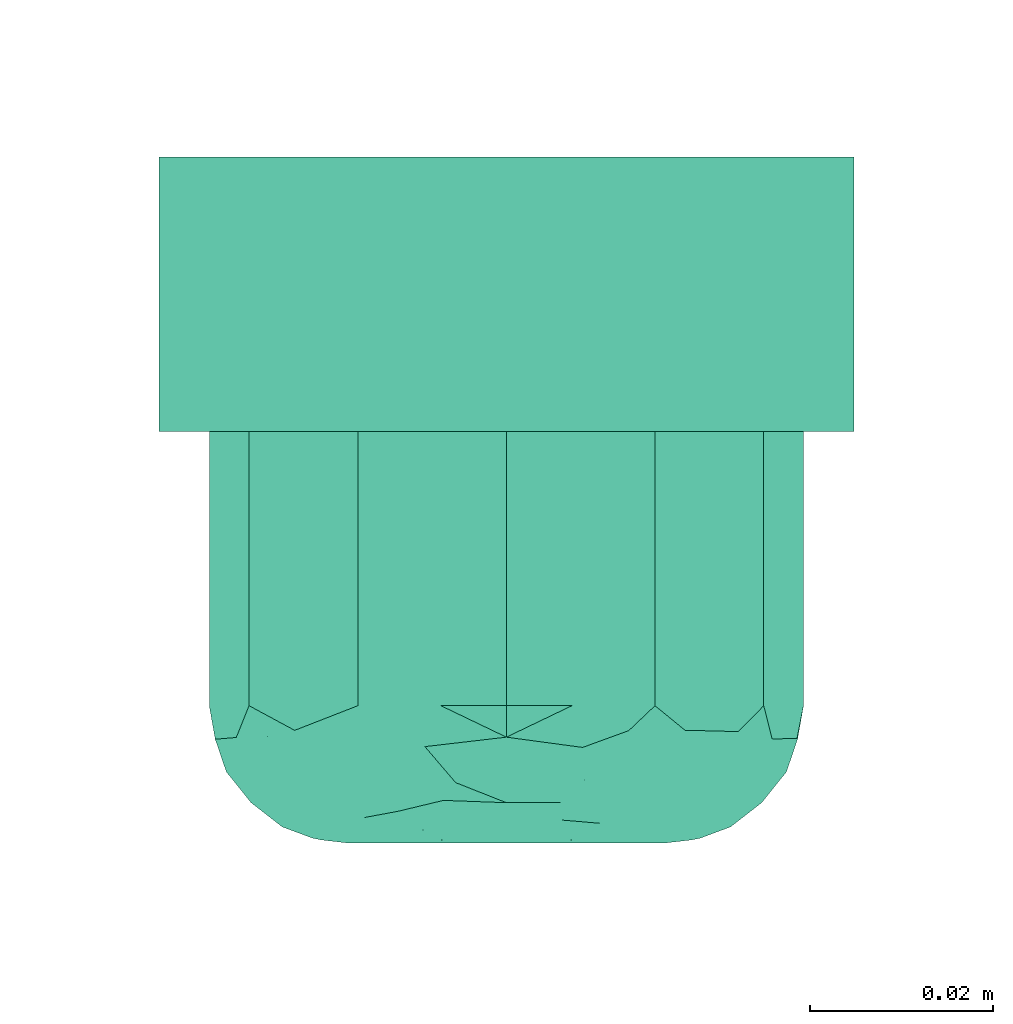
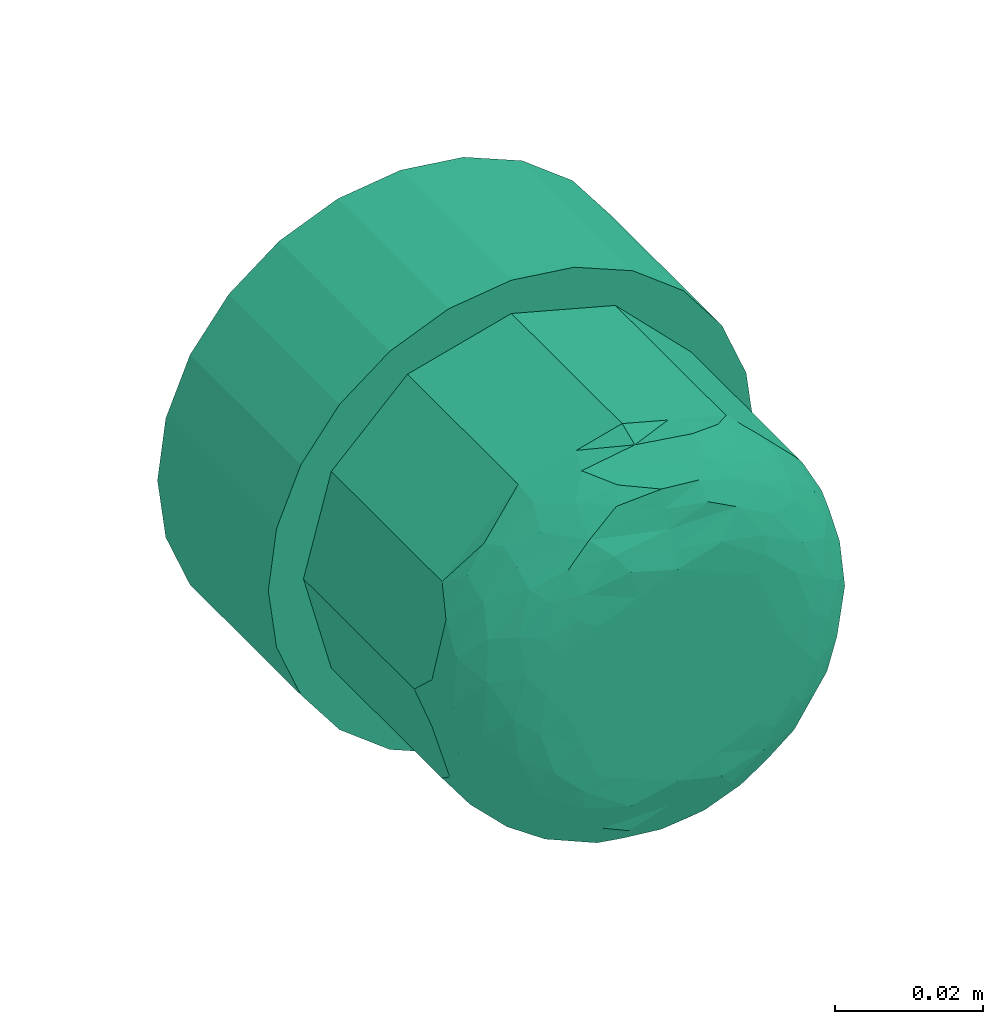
# One storey, part 42 of 146: 1 distribution control element.
"""IFC2X3 building model written with IfcOpenShell, lengths in metres."""

import ifcopenshell
import ifcopenshell.guid

model = None  # the IFC model being written
_history = None  # IfcOwnerHistory: only IFC2X3 demands one
_inside = {}  # id of a spatial element -> (the spatial element, [elements in it])
_under = {}  # id of a project, library or spatial element -> (it, [spatial elements below it])
_declared = {}  # id of a project -> (the project, [libraries it declares])
_typed = {}  # id of a type object -> (the type object, [elements of that type])
_made_of = {}  # id of a material, layer set ... -> (it, [elements and type objects made of it])


def new_model(schema):
    """Start an empty IFC model of exactly this schema.

    Asked for "IFC4X3", IfcOpenShell would pick the latest addendum, in which some entities
    have other attributes; the version numbers below select the first issue.
    IFC2X3 requires an IfcOwnerHistory on every rooted entity: one is made here for all.
    """
    global model, _history
    if schema == "IFC4X3":
        model = ifcopenshell.file(schema_version=(4, 3, 0, 0))
    else:
        model = ifcopenshell.file(schema=schema)
    _inside.clear()
    _under.clear()
    _declared.clear()
    _typed.clear()
    _made_of.clear()
    _history = None
    if model.schema == "IFC2X3":
        org = make("IfcOrganization", Name="unknown")
        user = make(
            "IfcPersonAndOrganization",
            ThePerson=make("IfcPerson", FamilyName="unknown"),
            TheOrganization=org,
        )
        app = make(
            "IfcApplication",
            ApplicationDeveloper=org,
            Version="unknown",
            ApplicationFullName="unknown",
            ApplicationIdentifier="unknown",
        )
        _history = make(
            "IfcOwnerHistory",
            OwningUser=user,
            OwningApplication=app,
            ChangeAction="ADDED",
            CreationDate=0,
        )
    return model


def make(cls, **values):
    """One entity of the class cls with the attributes given. An attribute that is None is left unset."""
    return model.create_entity(
        cls, **{name: value for name, value in values.items() if value is not None}
    )


def entity(cls, *values):
    """Any entity or typed value of the class cls, its attributes in the order of the schema. None: left unset."""
    e = model.create_entity(cls)
    for i, value in enumerate(values):
        if value is not None:
            e[i] = value
    return e


def rooted(cls, **values):
    """An entity with a GlobalId (a new one), such as an element, a storey or a relation."""
    return make(cls, GlobalId=ifcopenshell.guid.new(), OwnerHistory=_history, **values)


def si_unit(unit_type, name, prefix=None):
    """IfcSIUnit, for example si_unit("LENGTHUNIT", "METRE", prefix="MILLI")."""
    return make("IfcSIUnit", UnitType=unit_type, Prefix=prefix, Name=name)


def converted_unit(unit_type, name, factor, base, dimensions=None, offset=None):
    """IfcConversionBasedUnit, such as the inch: factor (a typed value) times the base unit."""
    return make(
        "IfcConversionBasedUnit"
        if offset is None
        else "IfcConversionBasedUnitWithOffset",
        ConversionOffset=offset,
        Dimensions=None
        if dimensions is None
        else entity("IfcDimensionalExponents", *dimensions),
        UnitType=unit_type,
        Name=name,
        ConversionFactor=make(
            "IfcMeasureWithUnit", ValueComponent=factor, UnitComponent=base
        ),
    )


def derived_unit(unit_type, elements):
    """IfcDerivedUnit: a product of units, each with its exponent."""
    return make(
        "IfcDerivedUnit",
        Elements=[
            make("IfcDerivedUnitElement", Unit=unit, Exponent=power)
            for unit, power in elements
        ],
        UnitType=unit_type,
    )


def assignment(units):
    """IfcUnitAssignment: the units of a project."""
    return None if units is None else make("IfcUnitAssignment", Units=units)


def point(xyz):
    """IfcCartesianPoint."""
    return None if xyz is None else make("IfcCartesianPoint", Coordinates=xyz)


def direction(xyz):
    """IfcDirection."""
    return None if xyz is None else make("IfcDirection", DirectionRatios=xyz)


def frame(location, z_axis=None, x_axis=None):
    """IfcAxis2Placement3D, a coordinate frame: its origin and axes. An axis left out is left unset."""
    return make(
        "IfcAxis2Placement3D",
        Location=point(location),
        Axis=direction(z_axis),
        RefDirection=direction(x_axis),
    )


def origin():
    """The frame at (0, 0, 0) with its axes left unset."""
    return frame((0.0, 0.0, 0.0))


def place(relative_to, where):
    """IfcLocalPlacement: puts the frame where relative to a parent placement (None: the world)."""
    return make(
        "IfcLocalPlacement", PlacementRelTo=relative_to, RelativePlacement=where
    )


def context(
    kind, dimensions, precision=None, world=None, true_north=None, identifier=None
):
    """IfcGeometricRepresentationContext, for example the 3D "Model" context."""
    return make(
        "IfcGeometricRepresentationContext",
        ContextIdentifier=identifier,
        ContextType=kind,
        CoordinateSpaceDimension=dimensions,
        Precision=precision,
        WorldCoordinateSystem=world,
        TrueNorth=true_north,
    )


def subcontext(parent, identifier, kind, view, scale=None):
    """IfcGeometricRepresentationSubContext, for example "Body" below "Model"."""
    return make(
        "IfcGeometricRepresentationSubContext",
        ContextIdentifier=identifier,
        ContextType=kind,
        ParentContext=parent,
        TargetScale=scale,
        TargetView=view,
    )


def project(units=None, contexts=None):
    """IfcProject with its units and contexts."""
    return rooted(
        "IfcProject",
        Name="project",
        RepresentationContexts=contexts,
        UnitsInContext=assignment(units),
    )


def spatial(cls, under=None, at=None, **own):
    """A site, building, storey or space (cls), placed at a placement, below another one or the project."""
    s = rooted(cls, ObjectPlacement=at, **own)
    if under is not None:
        _under.setdefault(under.id(), (under, []))[1].append(s)
    return s


def faces_of(points, faces, orient=None, outer=None):
    """IfcFace entities. A face is a list of loops; a loop is a list of indices into points, from 0.

    orient and outer hold one flag for each loop. By default every Orientation is true, the
    first loop of a face is its IfcFaceOuterBound and the others are IfcFaceBound.
    """
    made = []
    for i, loops in enumerate(faces):
        bounds = []
        for j, loop in enumerate(loops):
            is_outer = j == 0 if outer is None else outer[i][j]
            bounds.append(
                make(
                    "IfcFaceOuterBound" if is_outer else "IfcFaceBound",
                    Bound=make("IfcPolyLoop", Polygon=[points[k] for k in loop]),
                    Orientation=True if orient is None else orient[i][j],
                )
            )
        made.append(make("IfcFace", Bounds=bounds))
    return made


def faceted_brep(points, faces, orient=None, outer=None, voids=None):
    """IfcFacetedBrep: a solid bounded by flat faces; with voids (closed shells), ...WithVoids."""
    shared = [point(p) for p in points]
    hull = make("IfcClosedShell", CfsFaces=faces_of(shared, faces, orient, outer))
    if voids is None:
        return make("IfcFacetedBrep", Outer=hull)
    return make(
        "IfcFacetedBrepWithVoids",
        Outer=hull,
        Voids=[
            make(cls, CfsFaces=faces_of(shared, fs, o, b)) for cls, fs, o, b in voids
        ],
    )


def shape(context_of_items, identifier, shape_type, items):
    """IfcShapeRepresentation: the items that make up one representation, for example the "Body"."""
    return make(
        "IfcShapeRepresentation",
        ContextOfItems=context_of_items,
        RepresentationIdentifier=identifier,
        RepresentationType=shape_type,
        Items=items,
    )


def source(mapping_origin, context_of_items, identifier, shape_type, items):
    """IfcRepresentationMap: a shape defined once, which mapped items show again and again."""
    return make(
        "IfcRepresentationMap",
        MappingOrigin=mapping_origin,
        MappedRepresentation=shape(context_of_items, identifier, shape_type, items),
    )


def transform(
    local_origin,
    x_axis=None,
    y_axis=None,
    z_axis=None,
    scale=None,
    scale2=None,
    scale3=None,
    uniform=True,
):
    """IfcCartesianTransformationOperator3D, or its non-uniform kind. x_axis, y_axis, z_axis: its Axis1, 2, 3."""
    if uniform:
        return make(
            "IfcCartesianTransformationOperator3D",
            Axis1=direction(x_axis),
            Axis2=direction(y_axis),
            LocalOrigin=point(local_origin),
            Scale=scale,
            Axis3=direction(z_axis),
        )
    return make(
        "IfcCartesianTransformationOperator3DnonUniform",
        Axis1=direction(x_axis),
        Axis2=direction(y_axis),
        LocalOrigin=point(local_origin),
        Scale=scale,
        Axis3=direction(z_axis),
        Scale2=scale2,
        Scale3=scale3,
    )


def mapped(mapping_source, mapping_target):
    """IfcMappedItem: shows the shape of a source again, moved by a transform."""
    return make(
        "IfcMappedItem", MappingSource=mapping_source, MappingTarget=mapping_target
    )


def material(Name=None, Category=None):
    """IfcMaterial."""
    return make("IfcMaterial", Name=Name, Category=Category)


def made_of(thing, what):
    """Note that an element or type object is made of a material, layer set ...; save() writes the relation."""
    if what is not None:
        _made_of.setdefault(what.id(), (what, []))[1].append(thing)
    return thing


def type_object(cls, material=None, **own):
    """A type object (cls), such as IfcWallType, which elements share."""
    return made_of(rooted(cls, **own), material)


def type_shapes(of_type, sources):
    """Give a type object the sources (RepresentationMaps) that its elements show as mapped items."""
    of_type.RepresentationMaps = sources


def element(
    cls,
    number,
    at=None,
    inside=None,
    cuts=None,
    type_object=None,
    material=None,
    context=None,
    identifier="Body",
    shape_type=None,
    held_by="IfcProductDefinitionShape",
    body=None,
    shapes=None,
    **own,
):
    """One element of the class cls, such as IfcWall. Its Tag is "e" and its number.

    at: its placement. inside: the storey or other place that contains it. cuts: it is an
    opening in that element (IfcRelVoidsElement). A single representation is given by context,
    identifier, shape_type and body (its items); several are given by shapes. held_by: the class
    of the entity that holds the representations. save() writes the other relations.
    """
    e = rooted(cls, Tag="e%d" % number, ObjectPlacement=at, **own)
    if body is not None:
        shapes = [shape(context, identifier, shape_type, body)]
    if shapes is not None:
        e.Representation = make(held_by, Representations=shapes)
    if inside is not None:
        _inside.setdefault(inside.id(), (inside, []))[1].append(e)
    if cuts is not None:
        rooted(
            "IfcRelVoidsElement", RelatingBuildingElement=cuts, RelatedOpeningElement=e
        )
    if type_object is not None:
        _typed.setdefault(type_object.id(), (type_object, []))[1].append(e)
    return made_of(e, material)


def aggregate(whole, parts):
    """IfcRelAggregates: a whole, such as a stair, and the parts it consists of."""
    return rooted("IfcRelAggregates", RelatingObject=whole, RelatedObjects=parts)


def save(model, path):
    """Write the relations noted so far, then the file.

    IfcRelAggregates (storeys below a building ...), IfcRelContainedInSpatialStructure (elements
    in a storey), IfcRelDefinesByType, IfcRelAssociatesMaterial and IfcRelDeclares: one each for
    every whole, place, type object, material and project.
    """
    for whole, parts in _under.values():
        aggregate(whole, parts)
    for where, things in _inside.values():
        rooted(
            "IfcRelContainedInSpatialStructure",
            RelatedElements=things,
            RelatingStructure=where,
        )
    for kind, things in _typed.values():
        rooted("IfcRelDefinesByType", RelatedObjects=things, RelatingType=kind)
    for what, things in _made_of.values():
        rooted("IfcRelAssociatesMaterial", RelatedObjects=things, RelatingMaterial=what)
    for by, libraries in _declared.values():
        rooted("IfcRelDeclares", RelatingContext=by, RelatedDefinitions=libraries)
    model.write(path)


model = new_model("IFC2X3")

# Units and contexts
model_context = context("Model", 3, precision=1e-05, world=origin(), true_north=direction((6.12303176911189e-17, 1.0)))
body_context = subcontext(model_context, "Body", "Model", "MODEL_VIEW")
ifc_project = project(units=[si_unit("LENGTHUNIT", "METRE"), si_unit("AREAUNIT", "SQUARE_METRE"), si_unit("VOLUMEUNIT", "CUBIC_METRE"), converted_unit("PLANEANGLEUNIT", "DEGREE", entity("IfcRatioMeasure", 0.0174532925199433), si_unit("PLANEANGLEUNIT", "RADIAN"), dimensions=[0, 0, 0, 0, 0, 0, 0]), si_unit("MASSUNIT", "GRAM", prefix="KILO"), derived_unit("MASSDENSITYUNIT", [(si_unit("MASSUNIT", "GRAM", prefix="KILO"), 1), (si_unit("LENGTHUNIT", "METRE"), -3)]), si_unit("TIMEUNIT", "SECOND"), si_unit("FREQUENCYUNIT", "HERTZ"), si_unit("THERMODYNAMICTEMPERATUREUNIT", "DEGREE_CELSIUS"), derived_unit("THERMALTRANSMITTANCEUNIT", [(si_unit("MASSUNIT", "GRAM", prefix="KILO"), 1), (si_unit("THERMODYNAMICTEMPERATUREUNIT", "KELVIN"), -1), (si_unit("TIMEUNIT", "SECOND"), -3)]), derived_unit("VOLUMETRICFLOWRATEUNIT", [(si_unit("LENGTHUNIT", "METRE"), 3), (si_unit("TIMEUNIT", "SECOND"), -1)]), si_unit("ELECTRICCURRENTUNIT", "AMPERE"), si_unit("ELECTRICVOLTAGEUNIT", "VOLT"), si_unit("POWERUNIT", "WATT"), si_unit("FORCEUNIT", "NEWTON"), si_unit("ILLUMINANCEUNIT", "LUX"), si_unit("LUMINOUSFLUXUNIT", "LUMEN"), si_unit("LUMINOUSINTENSITYUNIT", "CANDELA"), derived_unit("USERDEFINED", [(si_unit("MASSUNIT", "GRAM", prefix="KILO"), -1), (si_unit("LENGTHUNIT", "METRE"), -2), (si_unit("TIMEUNIT", "SECOND"), 3), (si_unit("LUMINOUSFLUXUNIT", "LUMEN"), 1)]), derived_unit("LINEARVELOCITYUNIT", [(si_unit("LENGTHUNIT", "METRE"), 1), (si_unit("TIMEUNIT", "SECOND"), -1)]), si_unit("PRESSUREUNIT", "PASCAL"), derived_unit("USERDEFINED", [(si_unit("LENGTHUNIT", "METRE"), -2), (si_unit("MASSUNIT", "GRAM", prefix="KILO"), 1), (si_unit("TIMEUNIT", "SECOND"), -2)])], contexts=[model_context])

# Site, building, storey
site_placement = place(None, origin())
site = spatial("IfcSite", under=ifc_project, at=site_placement, Name="Default", CompositionType="ELEMENT")
building_placement = place(site_placement, origin())
building = spatial("IfcBuilding", under=site, at=building_placement, CompositionType="ELEMENT")
storey_placement = place(building_placement, origin())
storey = spatial("IfcBuildingStorey", under=building, at=storey_placement, Name="S01", CompositionType="ELEMENT", Elevation=0.0)

# Distribution control element
ifc_material = material(Name="Red plastic")
alarm_type = type_object("IfcAlarmType", Name="Incendie_Flash", PredefinedType="NOTDEFINED", material=ifc_material)
shared_shape = source(origin(), body_context, "Body", "Brep", [
    faceted_brep([(0.0268700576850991, 0.0268700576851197, 0.0299999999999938), (0.0190000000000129, 0.0329089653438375, 0.0299999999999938), (0.00983512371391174, 0.0367051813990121, 0.0299999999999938), (0.0, 0.038000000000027, 0.029999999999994), (-0.0098351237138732, 0.036705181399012, 0.0299999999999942), (-0.0189999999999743, 0.0329089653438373, 0.0299999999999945), (-0.0268700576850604, 0.0268700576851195, 0.0299999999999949), (-0.0329089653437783, 0.0190000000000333, 0.0299999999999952), (-0.0367051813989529, 0.00983512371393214, 0.0299999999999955), (-0.0379999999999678, 0.0, 0.0299999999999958), (-0.0367051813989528, -0.0098351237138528, 0.0299999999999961), (-0.0329089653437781, -0.0189999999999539, 0.0299999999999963), (-0.0268700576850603, -0.0268700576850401, 0.0299999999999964), (-0.0189999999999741, -0.0329089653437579, 0.0299999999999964), (-0.00983512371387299, -0.0367051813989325, 0.0299999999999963), (0.0, -0.0379999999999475, 0.0299999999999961), (0.00983512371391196, -0.0367051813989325, 0.0299999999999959), (0.0190000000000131, -0.0329089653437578, 0.0299999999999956), (0.0268700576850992, -0.02687005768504, 0.0299999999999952), (0.0329089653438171, -0.0189999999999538, 0.0299999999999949), (0.0367051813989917, -0.0098351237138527, 0.0299999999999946), (0.0380000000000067, 0.0, 0.0299999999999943), (0.0367051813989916, 0.00983512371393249, 0.029999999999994), (0.0329089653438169, 0.0190000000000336, 0.0299999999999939), (0.00983512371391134, -0.0367051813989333, 0.0), (0.0, -0.0379999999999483, 0.0), (-0.00983512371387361, -0.0367051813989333, 0.0), (-0.0189999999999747, -0.0329089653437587, 0.0), (-0.0268700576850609, -0.0268700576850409, 0.0), (-0.0329089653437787, -0.0189999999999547, 0.0), (-0.0367051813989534, -0.00983512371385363, 0.0), (-0.0379999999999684, 0.0, 0.0), (-0.0367051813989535, 0.00983512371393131, 0.0), (-0.0329089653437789, 0.0190000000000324, 0.0), (-0.0268700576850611, 0.0268700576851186, 0.0), (-0.0189999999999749, 0.0329089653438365, 0.0), (-0.00983512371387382, 0.0367051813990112, 0.0), (0.0, 0.0380000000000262, 0.0), (0.00983512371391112, 0.0367051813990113, 0.0), (0.0190000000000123, 0.0329089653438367, 0.0), (0.0268700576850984, 0.0268700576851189, 0.0), (0.0329089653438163, 0.0190000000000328, 0.0), (0.036705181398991, 0.00983512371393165, 0.0), (0.038000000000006, 0.0, 0.0), (0.0367051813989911, -0.00983512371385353, 0.0), (0.0329089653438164, -0.0189999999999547, 0.0), (0.0268700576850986, -0.0268700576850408, 0.0), (0.0190000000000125, -0.0329089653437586, 0.0)], [[[0, 1, 2, 3, 4, 5, 6, 7, 8, 9, 10, 11, 12, 13, 14, 15, 16, 17, 18, 19, 20, 21, 22, 23]], [[24, 25, 26, 27, 28, 29, 30, 31, 32, 33, 34, 35, 36, 37, 38, 39, 40, 41, 42, 43, 44, 45, 46, 47]], [[31, 9, 8, 32]], [[32, 8, 7, 33]], [[35, 34, 6, 5]], [[6, 34, 33, 7]], [[36, 35, 5, 4]], [[36, 4, 3, 37]], [[37, 3, 2, 38]], [[38, 2, 1, 39]], [[0, 40, 39, 1]], [[23, 41, 40, 0]], [[23, 22, 42, 41]], [[22, 21, 43, 42]], [[43, 21, 20, 44]], [[44, 20, 19, 45]], [[47, 46, 18, 17]], [[18, 46, 45, 19]], [[24, 47, 17, 16]], [[24, 16, 15, 25]], [[14, 26, 25, 15]], [[30, 29, 11, 10]], [[12, 11, 29, 28]], [[31, 30, 10, 9]], [[13, 27, 26, 14]], [[13, 12, 28, 27]]]),
    faceted_brep([(-0.00833767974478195, -0.0306762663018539, 0.0645629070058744), (-0.00716197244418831, -0.0305809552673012, 0.0600000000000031), (0.0, -0.0310753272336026, 0.0634394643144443), (-0.0317848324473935, -0.0042753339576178, 0.0635614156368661), (-0.0306323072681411, 0.000670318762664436, 0.0672353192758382), (-0.0318494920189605, 0.00354130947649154, 0.063663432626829), (-0.0202727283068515, 0.00358393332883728, 0.074678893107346), (-0.0182577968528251, 0.00974892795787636, 0.0746552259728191), (-0.0227868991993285, 0.00668807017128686, 0.0736367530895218), (-0.0167767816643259, -0.0227822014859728, 0.0704169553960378), (-0.021187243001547, -0.0212245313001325, 0.0683071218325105), (-0.016385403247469, -0.0254148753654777, 0.0679194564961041), (-0.0200936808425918, 0.0121748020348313, 0.0737502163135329), (0.0, -0.0281066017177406, 0.070606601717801), (-0.00590296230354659, -0.0275227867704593, 0.0705643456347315), (-0.00857849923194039, -0.0288841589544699, 0.0680903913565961), (-0.0279333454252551, -0.00316972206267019, 0.0706005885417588), (-0.0298000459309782, -0.0070831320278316, 0.0672523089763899), (-0.0253054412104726, -0.0115121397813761, 0.0709036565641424), (-0.0140812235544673, -0.0176795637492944, 0.0741056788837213), (-0.00714839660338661, -0.0193281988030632, 0.0746745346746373), (-0.0142535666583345, -0.0145433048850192, 0.0747241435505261), (-0.0207236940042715, -0.0135056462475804, 0.0731392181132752), (-0.0187772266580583, -0.0101036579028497, 0.0745046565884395), (-0.0260097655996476, -0.0163827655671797, 0.0670513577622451), (-0.0253709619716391, -0.0198772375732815, 0.0628318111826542), (-0.0212676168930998, -0.0232237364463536, 0.0654097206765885), (-0.0245225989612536, 8.80194780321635e-05, 0.0732544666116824), (-0.0273833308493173, 0.00573701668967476, 0.0707338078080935), (-0.0303229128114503, -0.00812499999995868, 0.0600000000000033), (-0.0290659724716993, -0.0135031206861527, 0.0636489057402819), (-0.0231315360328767, 0.0125689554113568, 0.0721287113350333), (-0.0207033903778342, 0.0187904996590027, 0.0707520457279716), (-0.0265039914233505, 0.0119036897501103, 0.0695653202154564), (-0.00891676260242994, 0.0305418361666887, 0.064475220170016), (-0.00716197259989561, 0.0305809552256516, 0.0600000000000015), (-0.00812499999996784, 0.0303229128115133, 0.0600000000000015), (-0.0162499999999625, 0.0281458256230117, 0.0600000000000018), (-0.0115458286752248, -0.0257177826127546, 0.0705219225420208), (-0.0104492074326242, -0.0229229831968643, 0.0728774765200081), (-0.0118384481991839, 0.0243524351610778, 0.0715443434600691), (-0.00912165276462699, 0.0220231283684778, 0.0735954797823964), (0.0, 0.0228033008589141, 0.0728033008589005), (-0.0297777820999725, 0.00830917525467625, 0.066710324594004), (-0.0295480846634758, 0.0125213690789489, 0.0634761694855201), (-0.0258588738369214, 0.0163601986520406, 0.0673075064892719), (-0.0212284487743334, 0.0212045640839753, 0.0682845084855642), (-0.0171631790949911, 0.0251277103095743, 0.0676038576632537), (-0.0237895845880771, -0.00671046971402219, 0.0731492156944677), (-0.0149371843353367, -0.00618718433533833, 0.0750000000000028), (-0.0212013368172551, -0.00276607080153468, 0.0744892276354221), (-0.0207033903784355, -0.0187905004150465, 0.0707520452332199), (-0.0303229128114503, 0.00812500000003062, 0.0600000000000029), (-0.0155298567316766, 0.0142338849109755, 0.0745699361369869), (0.0, -0.0296506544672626, 0.0668789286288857), (-0.00689181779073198, 0.0275012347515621, 0.0703557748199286), (0.0, 0.0254549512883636, 0.0717049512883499), (0.0, 0.0281066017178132, 0.0706066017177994), (-0.00618718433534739, 0.0149371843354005, 0.0750000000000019), (-0.00714839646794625, 0.0193281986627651, 0.0746745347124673), (-0.0140812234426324, 0.0176795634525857, 0.0741056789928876), (-0.0062193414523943, -0.024999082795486, 0.0725201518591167), (0.0, -0.0228033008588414, 0.0728033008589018), (-0.0195368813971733, -0.0256689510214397, 0.0626830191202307), (-0.0221979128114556, -0.0221979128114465, 0.0600000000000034), (-0.0162499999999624, -0.0281458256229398, 0.0600000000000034), (-0.0150650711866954, -0.0277296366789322, 0.0652326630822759), (0.0, -0.0324999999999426, 0.0600000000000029), (-0.0133801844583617, -0.0293432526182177, 0.0627277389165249), (-0.00812499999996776, -0.0303229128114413, 0.0600000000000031), (-0.0281458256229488, -0.0162499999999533, 0.0600000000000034), (-0.026864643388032, -0.0126649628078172, 0.0687264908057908), (-0.0288189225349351, -0.0118325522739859, 0.0662114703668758), (-0.0324999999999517, 0.0, 0.0600000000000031), (-0.0281458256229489, 0.0162500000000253, 0.0600000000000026), (-0.0149371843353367, 0.00618718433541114, 0.0750000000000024), (-0.0123743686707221, 0.0123743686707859, 0.0750000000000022), (-0.0261755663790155, 0.0186043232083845, 0.0633828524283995), (-0.0215965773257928, 0.0229734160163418, 0.0653044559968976), (-0.0231574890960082, 0.022453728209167, 0.0626954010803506), (-0.0161946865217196, 0.027510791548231, 0.0641184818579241), (-0.0116849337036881, 0.028048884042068, 0.0676788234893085), (-0.005544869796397, 0.029399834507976, 0.0684136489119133), (0.0, 0.0201516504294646, 0.0739016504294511), (-0.0221979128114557, 0.0221979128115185, 0.0600000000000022), (-0.0160989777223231, -0.0197228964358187, 0.0727142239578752), (0.0, -0.0201516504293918, 0.0739016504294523), (0.0, -0.0174999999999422, 0.0750000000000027), (-0.00618718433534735, -0.0149371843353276, 0.0750000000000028), (-0.018783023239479, 0.0171862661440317, 0.072714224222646), (-0.0123743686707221, -0.0123743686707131, 0.075000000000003), (-0.0174999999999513, 0.0, 0.0750000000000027), (0.0, 0.0296506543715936, 0.0668789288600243), (0.0, 0.0310753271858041, 0.0634394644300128), (0.0, 0.0325000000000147, 0.0600000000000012), (-0.0154632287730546, 0.0211512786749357, 0.0722185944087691), (0.0, 0.0175000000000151, 0.0750000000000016), (0.0, -0.025454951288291, 0.0717049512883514), (0.0083376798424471, 0.030676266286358, 0.0645629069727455), (0.0071619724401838, 0.0305809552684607, 0.060000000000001), (0.020723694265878, 0.0135056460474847, 0.0731392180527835), (0.0253054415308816, 0.0115121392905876, 0.0709036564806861), (0.0207033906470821, 0.0187905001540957, 0.0707520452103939), (0.00857849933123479, 0.0288841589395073, 0.0680903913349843), (0.00590296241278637, 0.0275227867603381, 0.0705643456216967), (0.0115458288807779, 0.0257177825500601, 0.0705219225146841), (0.016776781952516, 0.0227822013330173, 0.0704169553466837), (0.0211872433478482, 0.0212245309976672, 0.0683071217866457), (0.0163854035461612, 0.0254148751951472, 0.0679194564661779), (0.0317848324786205, 0.0042753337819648, 0.0635614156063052), (0.0303229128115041, 0.0081250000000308, 0.0600000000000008), (0.0290659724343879, 0.0135031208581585, 0.0636489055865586), (0.0231315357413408, -0.0125689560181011, 0.0721287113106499), (0.0207033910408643, -0.0187904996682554, 0.0707520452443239), (0.0265039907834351, -0.0119036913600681, 0.0695653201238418), (0.0140812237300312, 0.0176795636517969, 0.0741056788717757), (0.00714839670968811, 0.0193281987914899, 0.074674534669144), (0.0142535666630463, 0.0145433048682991, 0.074724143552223), (0.0187772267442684, 0.01010365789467, 0.0745046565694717), (0.024522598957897, -8.80198207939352e-05, 0.0732544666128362), (0.0279333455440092, 0.00316972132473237, 0.070600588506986), (0.023789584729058, 0.0067104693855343, 0.0731492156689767), (0.0227868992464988, -0.00668807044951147, 0.0736367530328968), (0.027383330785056, -0.00573701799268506, 0.070733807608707), (0.0104492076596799, 0.0229229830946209, 0.0728774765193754), (0.0295480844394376, -0.0125213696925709, 0.0634761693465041), (0.0318494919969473, -0.0035413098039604, 0.0636634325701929), (0.0297777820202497, -0.00830917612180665, 0.0667103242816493), (0.0303229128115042, -0.00812499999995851, 0.0600000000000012), (0.0182577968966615, -0.00974892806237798, 0.074655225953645), (0.0200936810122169, -0.0121748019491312, 0.073750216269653), (0.0171631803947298, -0.0251277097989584, 0.0676038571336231), (0.0212284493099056, -0.0212045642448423, 0.0682845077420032), (0.0118384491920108, -0.0243524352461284, 0.0715443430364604), (0.020272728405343, -0.00358393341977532, 0.0746788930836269), (0.00912165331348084, -0.0220231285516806, 0.073595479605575), (0.0306323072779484, -0.00067031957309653, 0.0672353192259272), (0.02585887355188, -0.0163601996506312, 0.0673075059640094), (0.00891676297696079, -0.030541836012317, 0.0644752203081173), (0.00716197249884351, -0.0305809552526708, 0.0600000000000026), (0.0081250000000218, -0.0303229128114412, 0.0600000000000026), (0.0162500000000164, -0.0281458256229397, 0.0600000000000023), (0.0260097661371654, 0.0163827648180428, 0.0670513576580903), (0.0253709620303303, 0.0198772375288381, 0.0628318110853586), (0.0212676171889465, 0.0232237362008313, 0.0654097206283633), (0.0298000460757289, 0.00708313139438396, 0.0672523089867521), (0.0149371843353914, 0.00618718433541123, 0.0750000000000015), (0.0212013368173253, 0.00276607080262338, 0.0744892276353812), (0.0155298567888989, -0.0142338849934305, 0.0745699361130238), (0.00689181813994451, -0.0275012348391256, 0.0703557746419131), (0.00618718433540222, -0.0149371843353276, 0.0750000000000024), (0.00714839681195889, -0.0193281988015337, 0.0746745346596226), (0.014081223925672, -0.0176795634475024, 0.0741056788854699), (0.00621934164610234, 0.0249990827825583, 0.0725201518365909), (0.0195368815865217, 0.0256689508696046, 0.0626830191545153), (0.0221979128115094, 0.0221979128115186, 0.0600000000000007), (0.0162500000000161, 0.0281458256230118, 0.0600000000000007), (0.0150650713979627, 0.0277296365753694, 0.0652326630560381), (0.0133801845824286, 0.0293432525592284, 0.0627277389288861), (0.00812500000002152, 0.0303229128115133, 0.060000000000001), (0.0281458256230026, 0.0162500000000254, 0.0600000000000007), (0.0268646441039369, 0.0126649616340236, 0.0687264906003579), (0.0288189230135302, 0.0118325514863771, 0.0662114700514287), (0.0325000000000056, 0.0, 0.060000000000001), (0.0281458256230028, -0.0162499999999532, 0.0600000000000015), (0.0149371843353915, -0.00618718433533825, 0.0750000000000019), (0.0123743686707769, -0.012374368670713, 0.0750000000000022), (0.0261755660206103, -0.0186043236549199, 0.0633828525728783), (0.0215965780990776, -0.0229734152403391, 0.06530445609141), (0.0231574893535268, -0.0224537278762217, 0.0626954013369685), (0.0161946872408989, -0.027510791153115, 0.0641184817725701), (0.0116849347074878, -0.0280488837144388, 0.0676788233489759), (0.00554487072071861, -0.0293998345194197, 0.0684136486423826), (0.0221979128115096, -0.0221979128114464, 0.0600000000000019), (0.0160989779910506, 0.0197228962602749, 0.0727142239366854), (0.00618718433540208, 0.0149371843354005, 0.0750000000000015), (0.0187830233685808, -0.0171862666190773, 0.072714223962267), (0.0123743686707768, 0.012374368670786, 0.0750000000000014), (0.017500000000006, 0.0, 0.0750000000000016), (0.0154632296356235, -0.021151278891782, 0.0722185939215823), (0.0, 0.0, 0.0750000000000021), (0.0, 0.0, 0.0300000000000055), (-0.0281458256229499, 0.0162500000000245, 0.030000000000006), (-0.0221979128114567, 0.0221979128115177, 0.0300000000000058), (-0.0162499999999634, 0.028145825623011, 0.0300000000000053), (-0.0089852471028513, 0.0300924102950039, 0.0300000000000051), (-0.0303229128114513, 0.00812500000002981, 0.0300000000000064), (-0.0324999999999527, 0.0, 0.0300000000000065), (0.0, 0.0325000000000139, 0.0300000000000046), (0.00812500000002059, 0.0303229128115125, 0.0300000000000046), (-0.0303229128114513, -0.00812499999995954, 0.0300000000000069), (-0.0281458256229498, -0.0162499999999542, 0.0300000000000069), (-0.0221979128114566, -0.0221979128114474, 0.030000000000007), (-0.0162499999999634, -0.0281458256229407, 0.0300000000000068), (-0.00812499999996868, -0.0303229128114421, 0.0300000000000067), (0.0, -0.0324999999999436, 0.0300000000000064), (0.0162500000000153, 0.0281458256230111, 0.0300000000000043), (0.0221979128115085, 0.0221979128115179, 0.0300000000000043), (0.0281458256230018, 0.0162500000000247, 0.0300000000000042), (0.0303229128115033, 0.00812500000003, 0.0300000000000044), (0.0325000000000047, 0.0, 0.0300000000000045), (0.0303229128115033, -0.00812499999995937, 0.0300000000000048), (0.00898524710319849, -0.0300924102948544, 0.0300000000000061), (0.0162500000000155, -0.0281458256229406, 0.0300000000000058), (0.0221979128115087, -0.0221979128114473, 0.0300000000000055), (0.0281458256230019, -0.016249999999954, 0.0300000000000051)], [[[0, 1, 2]], [[3, 4, 5]], [[6, 7, 8]], [[9, 10, 11]], [[8, 7, 12]], [[13, 14, 15]], [[16, 17, 18]], [[19, 20, 21]], [[22, 21, 23]], [[24, 25, 26]], [[27, 8, 28]], [[4, 3, 17]], [[3, 29, 30]], [[31, 32, 33]], [[34, 35, 36, 37]], [[9, 38, 39]], [[40, 41, 42]], [[5, 43, 44]], [[8, 31, 28]], [[45, 32, 46]], [[40, 47, 46]], [[27, 16, 48]], [[38, 15, 14]], [[23, 49, 50]], [[22, 18, 51]], [[52, 5, 44]], [[19, 39, 20]], [[12, 7, 53]], [[15, 54, 13]], [[55, 56, 57]], [[58, 59, 60]], [[39, 61, 62]], [[63, 64, 65]], [[26, 25, 63]], [[0, 15, 66]], [[15, 0, 54]], [[11, 66, 15]], [[26, 63, 66]], [[0, 2, 54]], [[1, 67, 2]], [[68, 65, 69, 1]], [[0, 66, 68]], [[26, 66, 11]], [[30, 25, 24]], [[70, 64, 25]], [[10, 51, 24]], [[70, 25, 30]], [[71, 72, 24]], [[3, 73, 29]], [[30, 24, 72]], [[29, 70, 30]], [[73, 3, 5]], [[72, 17, 3]], [[52, 44, 74]], [[4, 43, 5]], [[52, 73, 5]], [[43, 4, 28]], [[4, 17, 16]], [[33, 45, 43]], [[75, 76, 7]], [[4, 16, 28]], [[48, 16, 18]], [[48, 18, 22]], [[71, 24, 51]], [[74, 44, 77]], [[45, 44, 43]], [[78, 79, 77]], [[34, 80, 81]], [[44, 45, 77]], [[78, 45, 46]], [[82, 55, 57]], [[83, 41, 59]], [[81, 80, 47]], [[37, 79, 80]], [[78, 77, 45]], [[79, 37, 84, 74]], [[26, 11, 10]], [[38, 11, 15]], [[26, 10, 24]], [[51, 10, 9]], [[19, 85, 39]], [[38, 9, 11]], [[51, 9, 85]], [[86, 20, 39]], [[87, 20, 86]], [[39, 62, 86]], [[28, 31, 33]], [[20, 88, 21]], [[20, 87, 88]], [[32, 31, 89]], [[48, 22, 23]], [[85, 19, 22]], [[50, 48, 23]], [[90, 23, 21]], [[48, 50, 27]], [[27, 6, 8]], [[91, 50, 49]], [[23, 90, 49]], [[16, 27, 28]], [[75, 7, 6]], [[91, 6, 50]], [[12, 31, 8]], [[75, 6, 91]], [[27, 50, 6]], [[31, 12, 89]], [[60, 12, 53]], [[53, 58, 60]], [[53, 7, 76]], [[34, 92, 93]], [[58, 53, 76]], [[34, 82, 92]], [[93, 94, 35]], [[34, 93, 35]], [[79, 78, 80]], [[80, 34, 37]], [[28, 33, 43]], [[45, 33, 32]], [[68, 66, 63]], [[64, 63, 25]], [[89, 95, 32]], [[40, 42, 56]], [[82, 81, 55]], [[55, 40, 56]], [[55, 81, 40]], [[81, 82, 34]], [[92, 82, 57]], [[83, 42, 41]], [[59, 96, 83]], [[95, 89, 60]], [[96, 59, 58]], [[60, 59, 41]], [[97, 62, 61]], [[14, 13, 97]], [[38, 14, 61]], [[97, 61, 14]], [[61, 39, 38]], [[0, 68, 1]], [[65, 68, 63]], [[30, 72, 3]], [[18, 17, 71]], [[72, 71, 17]], [[18, 71, 51]], [[78, 46, 47]], [[46, 32, 40]], [[78, 47, 80]], [[81, 47, 40]], [[77, 79, 74]], [[39, 85, 9]], [[51, 85, 22]], [[95, 40, 32]], [[60, 89, 12]], [[95, 41, 40]], [[41, 95, 60]], [[90, 21, 88]], [[19, 21, 22]], [[98, 99, 93]], [[100, 101, 102]], [[103, 104, 105]], [[106, 107, 108]], [[109, 110, 111]], [[104, 103, 57]], [[112, 113, 114]], [[115, 116, 117]], [[100, 117, 118]], [[119, 120, 121]], [[119, 122, 123]], [[106, 105, 124]], [[125, 126, 127]], [[128, 126, 125]], [[122, 129, 130]], [[131, 132, 133]], [[134, 129, 122]], [[133, 135, 62]], [[109, 136, 126]], [[137, 113, 132]], [[138, 139, 140, 141]], [[142, 143, 144]], [[136, 109, 145]], [[118, 146, 147]], [[122, 112, 123]], [[120, 145, 101]], [[115, 124, 116]], [[130, 129, 148]], [[103, 92, 57]], [[149, 97, 13]], [[150, 151, 152]], [[124, 153, 42]], [[154, 155, 156]], [[144, 143, 154]], [[98, 103, 157]], [[103, 98, 92]], [[108, 157, 103]], [[144, 154, 157]], [[98, 93, 92]], [[99, 94, 93]], [[158, 156, 159, 99]], [[98, 157, 158]], [[144, 157, 108]], [[111, 143, 142]], [[160, 155, 143]], [[107, 102, 142]], [[160, 143, 111]], [[161, 162, 142]], [[109, 163, 110]], [[111, 142, 162]], [[110, 160, 111]], [[163, 109, 126]], [[162, 145, 109]], [[128, 125, 164]], [[136, 127, 126]], [[128, 163, 126]], [[127, 136, 123]], [[136, 145, 120]], [[114, 137, 127]], [[165, 166, 129]], [[136, 120, 123]], [[121, 120, 101]], [[121, 101, 100]], [[161, 142, 102]], [[164, 125, 167]], [[137, 125, 127]], [[168, 169, 167]], [[138, 170, 171]], [[125, 137, 167]], [[168, 137, 132]], [[172, 149, 13]], [[86, 135, 151]], [[171, 170, 131]], [[141, 169, 170]], [[168, 167, 137]], [[169, 141, 173, 164]], [[144, 108, 107]], [[105, 108, 103]], [[144, 107, 142]], [[102, 107, 106]], [[115, 174, 124]], [[105, 106, 108]], [[102, 106, 174]], [[83, 116, 124]], [[96, 116, 83]], [[124, 42, 83]], [[123, 112, 114]], [[116, 175, 117]], [[116, 96, 175]], [[113, 112, 176]], [[121, 100, 118]], [[174, 115, 100]], [[147, 121, 118]], [[177, 118, 117]], [[121, 147, 119]], [[119, 134, 122]], [[178, 147, 146]], [[118, 177, 146]], [[120, 119, 123]], [[165, 129, 134]], [[178, 134, 147]], [[130, 112, 122]], [[165, 134, 178]], [[119, 147, 134]], [[112, 130, 176]], [[152, 130, 148]], [[148, 150, 152]], [[148, 129, 166]], [[138, 54, 2]], [[150, 148, 166]], [[138, 172, 54]], [[2, 67, 139]], [[138, 2, 139]], [[169, 168, 170]], [[170, 138, 141]], [[123, 114, 127]], [[137, 114, 113]], [[158, 157, 154]], [[155, 154, 143]], [[176, 179, 113]], [[133, 62, 97]], [[172, 171, 149]], [[149, 133, 97]], [[149, 171, 133]], [[171, 172, 138]], [[54, 172, 13]], [[86, 62, 135]], [[151, 87, 86]], [[179, 176, 152]], [[87, 151, 150]], [[152, 151, 135]], [[56, 42, 153]], [[153, 105, 104]], [[104, 57, 56]], [[56, 153, 104]], [[153, 124, 105]], [[98, 158, 99]], [[156, 158, 154]], [[111, 162, 109]], [[101, 145, 161]], [[162, 161, 145]], [[101, 161, 102]], [[168, 132, 131]], [[132, 113, 133]], [[168, 131, 170]], [[171, 131, 133]], [[167, 169, 164]], [[124, 174, 106]], [[102, 174, 100]], [[179, 133, 113]], [[152, 176, 130]], [[179, 135, 133]], [[135, 179, 152]], [[177, 117, 175]], [[115, 117, 100]], [[180, 96, 58]], [[180, 58, 76]], [[180, 76, 75]], [[180, 75, 91]], [[180, 91, 49]], [[180, 49, 90]], [[180, 90, 88]], [[180, 88, 87]], [[180, 87, 150]], [[180, 175, 96]], [[180, 177, 175]], [[180, 146, 177]], [[180, 178, 146]], [[180, 150, 166]], [[180, 166, 165]], [[180, 165, 178]], [[181, 182, 183]], [[181, 183, 184]], [[181, 184, 185]], [[181, 186, 182]], [[181, 187, 186]], [[181, 185, 188]], [[181, 188, 189]], [[181, 190, 187]], [[181, 191, 190]], [[181, 192, 191]], [[181, 193, 192]], [[181, 194, 193]], [[181, 195, 194]], [[181, 189, 196]], [[181, 196, 197]], [[181, 197, 198]], [[181, 198, 199]], [[181, 199, 200]], [[181, 200, 201]], [[181, 202, 195]], [[181, 203, 202]], [[181, 204, 203]], [[181, 205, 204]], [[181, 201, 205]], [[192, 193, 65, 64, 70, 191]], [[69, 65, 193, 194, 195, 67, 1]], [[184, 37, 36, 35, 94, 188, 185]], [[190, 191, 70, 29, 73, 187]], [[74, 84, 37, 184, 183, 182]], [[52, 74, 182, 186, 187, 73]], [[159, 156, 196, 189, 188, 94, 99]], [[160, 198, 197, 196, 156, 155]], [[203, 141, 140, 139, 67, 195, 202]], [[199, 198, 160, 110, 163, 200]], [[173, 141, 203, 204, 205, 164]], [[201, 200, 163, 128, 164, 205]]]),
])
type_shapes(alarm_type, [shared_shape])
distribution_control_element_placement = place(storey_placement, frame((48.0587436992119, -188.76106962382, 2.30000000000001), z_axis=(0.0, -1.0, 0.0), x_axis=(-1.0, 0.0, 0.0)))
element("IfcDistributionControlElement", 1, at=distribution_control_element_placement, inside=storey, type_object=alarm_type, material=ifc_material, Name="INT_Flash:Incendie_Flash", ObjectType="INT_Flash:Incendie_Flash", context=body_context, shape_type="MappedRepresentation", body=[
    mapped(shared_shape, transform((0.0, 0.0, 0.0), scale=1.0)),
])

save(model, "model.ifc")
